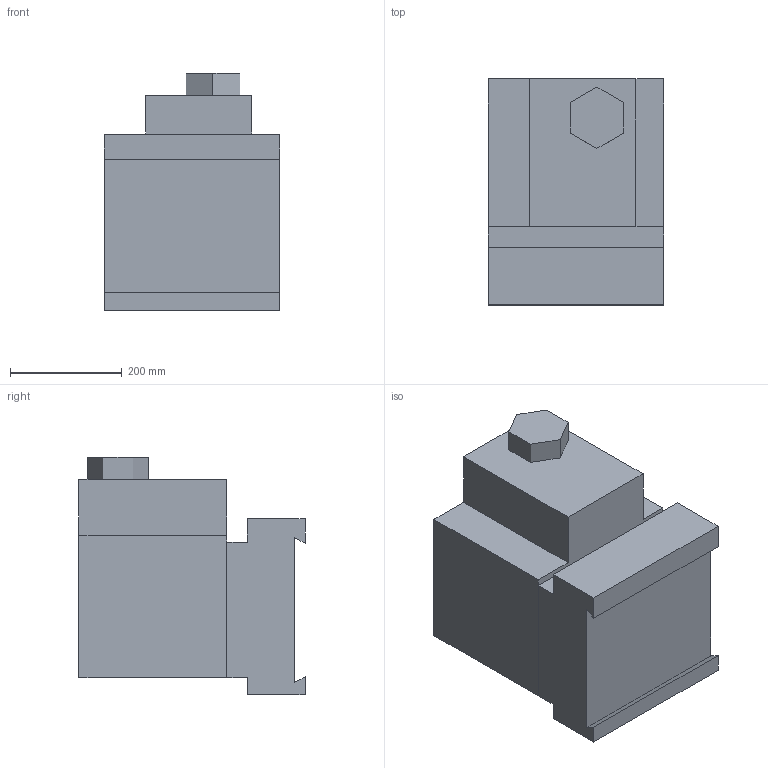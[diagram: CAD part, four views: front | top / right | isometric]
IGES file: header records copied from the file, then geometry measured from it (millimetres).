
Start section: This line is the first line of the start section. You can replace these lines and/or  add as many as you want.
Global section: file name: /dsk_ncs/ncsimul/support/trans/_bcd/u.igs; native system: COMPUTERVISION CADDS5 REV 5.3.2 GRAPHIC SYSTEM; preprocessor: CV Translators IGES/VDA Revision 2.1, STEP Revision 1.2; author: Author; organization: Organization; date: 970731.110907; units: millimetre
Bounding box: 315 x 405.19 x 426 mm (x, y, z)
Topology: 0 solids, 0 shells, 27 faces, 146 edges, 146 vertices
Faces by surface type: bspline 26, plane 1
